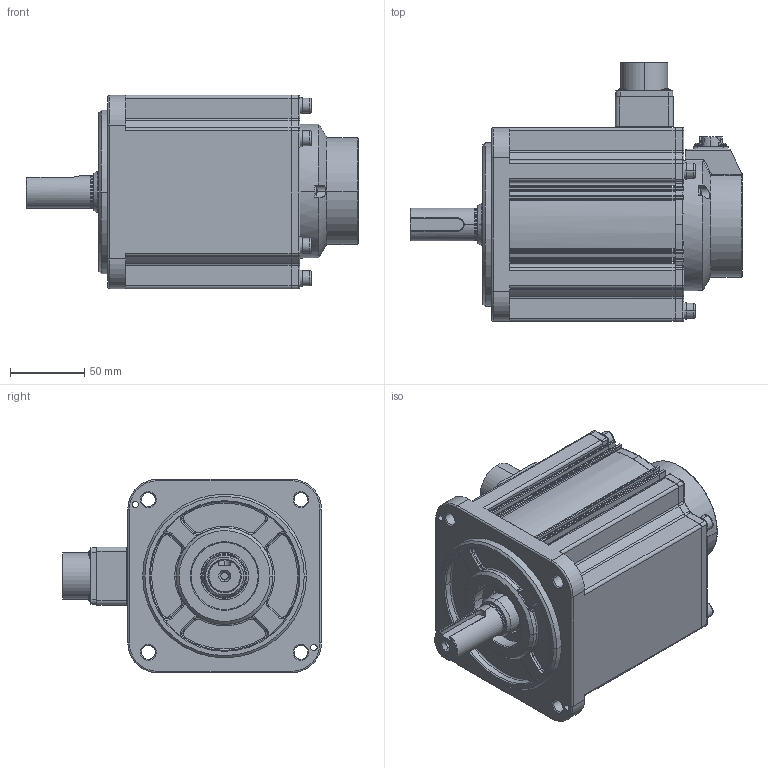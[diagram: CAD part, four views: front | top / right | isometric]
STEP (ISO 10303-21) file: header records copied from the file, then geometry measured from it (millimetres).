
FILE_DESCRIPTION((''),'2;1');
FILE_NAME('4611170000711','2023-03-31T13:31:03',('ms28071'),(''),'CREO PARAMETRIC BY PTC INC, 2018100','CREO PARAMETRIC BY PTC INC, 2018100','');
FILE_SCHEMA(('CONFIG_CONTROL_DESIGN'));
Length unit declared in the file: millimetre
Products named in the file (1): 4611170000711
Bounding box: 223 x 173.8 x 130 mm (x, y, z)
Surface area: 157336.4 mm2 (no closed solid volume)
Topology: 0 solids, 41 shells, 860 faces, 2657 edges, 1793 vertices
Faces by surface type: cylinder 384, plane 262, torus 105, cone 68, sphere 22, bspline 19
Entity records: 33472 total; most frequent: CARTESIAN_POINT 9817, DIRECTION 5129, ORIENTED_EDGE 4606, EDGE_CURVE 2641, AXIS2_PLACEMENT_3D 2004, VERTEX_POINT 1793, CIRCLE 1163, VECTOR 1121
